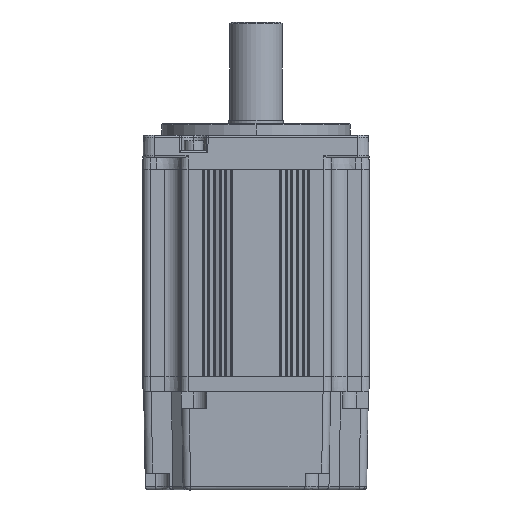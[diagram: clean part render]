
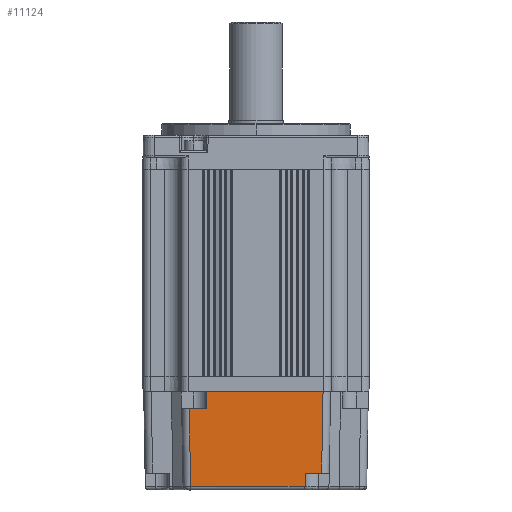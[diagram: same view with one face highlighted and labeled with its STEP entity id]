
A CAD part, front view. The second image highlights one B-rep face of the part: STEP entity #11124.
In plain terms, the highlighted planar face has unit normal (0, -1, -0.018).
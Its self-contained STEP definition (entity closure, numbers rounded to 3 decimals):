
#85 = LINE ( 'NONE', #92, #30242 ) ;
#92 = CARTESIAN_POINT ( 'NONE',  ( 25.297, -27.922, 5.935 ) ) ;
#93 = DIRECTION ( 'NONE',  ( -1., 0., 0. ) ) ;
#617 = LINE ( 'NONE', #618, #30338 ) ;
#618 = CARTESIAN_POINT ( 'NONE',  ( -12.703, -27.844, 1.435 ) ) ;
#619 = DIRECTION ( 'NONE',  ( 0., -0.017, 1. ) ) ;
#620 = LINE ( 'NONE', #621, #30339 ) ;
#621 = CARTESIAN_POINT ( 'NONE',  ( 17.686, -27.547, -15.565 ) ) ;
#622 = DIRECTION ( 'NONE',  ( 0.017, -0.017, 1. ) ) ;
#749 = CARTESIAN_POINT ( 'NONE',  ( -19.703, -27.844, 1.435 ) ) ;
#754 = LINE ( 'NONE', #749, #30376 ) ;
#758 = DIRECTION ( 'NONE',  ( -1., 0., 0. ) ) ;
#896 = LINE ( 'NONE', #897, #30423 ) ;
#897 = CARTESIAN_POINT ( 'NONE',  ( -19.703, -27.548, -15.565 ) ) ;
#898 = DIRECTION ( 'NONE',  ( 1., 0., 0. ) ) ;
#902 = LINE ( 'NONE', #915, #30426 ) ;
#909 = LINE ( 'NONE', #910, #30428 ) ;
#910 = CARTESIAN_POINT ( 'NONE',  ( 13.297, -28.158, 19.435 ) ) ;
#911 = DIRECTION ( 'NONE',  ( 0., -0.017, 1. ) ) ;
#915 = CARTESIAN_POINT ( 'NONE',  ( -19.703, -27.486, -19.083 ) ) ;
#916 = DIRECTION ( 'NONE',  ( 1., 0., 0. ) ) ;
#921 = LINE ( 'NONE', #928, #30432 ) ;
#928 = CARTESIAN_POINT ( 'NONE',  ( -17.389, -27.844, 1.435 ) ) ;
#929 = DIRECTION ( 'NONE',  ( 0.017, 0.017, -1. ) ) ;
#984 = CARTESIAN_POINT ( 'NONE',  ( 13.297, -27.486, -19.065 ) ) ;
#985 = CARTESIAN_POINT ( 'NONE',  ( 13.297, -27.486, -19.071 ) ) ;
#990 = CARTESIAN_POINT ( 'NONE',  ( 13.297, -27.486, -19.077 ) ) ;
#991 = CARTESIAN_POINT ( 'NONE',  ( 13.297, -27.486, -19.083 ) ) ;
#11124 = ADVANCED_FACE ( 'NONE', ( #19225 ), #19226, .T. ) ;
#12330 = EDGE_LOOP ( 'NONE', ( #15167, #15168, #15169, #15170, #15171, #15172, #15173, #15174, #15175 ) ) ;
#14833 = VERTEX_POINT ( 'NONE', #22484 ) ;
#14839 = VERTEX_POINT ( 'NONE', #22493 ) ;
#14841 = VERTEX_POINT ( 'NONE', #22495 ) ;
#14843 = VERTEX_POINT ( 'NONE', #22497 ) ;
#14846 = VERTEX_POINT ( 'NONE', #22500 ) ;
#14850 = VERTEX_POINT ( 'NONE', #22504 ) ;
#14857 = VERTEX_POINT ( 'NONE', #22511 ) ;
#14902 = VERTEX_POINT ( 'NONE', #22556 ) ;
#14904 = VERTEX_POINT ( 'NONE', #22558 ) ;
#15167 = ORIENTED_EDGE ( 'NONE', *, *, #16344, .T. ) ;
#15168 = ORIENTED_EDGE ( 'NONE', *, *, #16259, .T. ) ;
#15169 = ORIENTED_EDGE ( 'NONE', *, *, #16167, .T. ) ;
#15170 = ORIENTED_EDGE ( 'NONE', *, *, #16258, .F. ) ;
#15171 = ORIENTED_EDGE ( 'NONE', *, *, #16299, .T. ) ;
#15172 = ORIENTED_EDGE ( 'NONE', *, *, #16354, .T. ) ;
#15173 = ORIENTED_EDGE ( 'NONE', *, *, #16350, .T. ) ;
#15174 = ORIENTED_EDGE ( 'NONE', *, *, #16373, .F. ) ;
#15175 = ORIENTED_EDGE ( 'NONE', *, *, #16348, .T. ) ;
#16167 = EDGE_CURVE ( 'NONE', #14904, #14902, #85, .T. ) ;
#16258 = EDGE_CURVE ( 'NONE', #14857, #14902, #617, .T. ) ;
#16259 = EDGE_CURVE ( 'NONE', #14841, #14904, #620, .T. ) ;
#16299 = EDGE_CURVE ( 'NONE', #14857, #14850, #754, .T. ) ;
#16344 = EDGE_CURVE ( 'NONE', #14843, #14841, #896, .T. ) ;
#16348 = EDGE_CURVE ( 'NONE', #14839, #14843, #909, .T. ) ;
#16350 = EDGE_CURVE ( 'NONE', #14833, #14846, #902, .T. ) ;
#16354 = EDGE_CURVE ( 'NONE', #14850, #14833, #921, .T. ) ;
#16373 = EDGE_CURVE ( 'NONE', #14839, #14846, #29962, .T. ) ;
#19221 = CARTESIAN_POINT ( 'NONE',  ( -19.703, -28.158, 19.435 ) ) ;
#19225 = FACE_OUTER_BOUND ( 'NONE', #12330, .T. ) ;
#19226 = PLANE ( 'NONE',  #29616 ) ;
#19228 = DIRECTION ( 'NONE',  ( 0., -1., -0.017 ) ) ;
#19229 = DIRECTION ( 'NONE',  ( 0., 0.017, -1. ) ) ;
#22484 = CARTESIAN_POINT ( 'NONE',  ( -17.031, -27.486, -19.083 ) ) ;
#22493 = CARTESIAN_POINT ( 'NONE',  ( 13.297, -27.486, -19.065 ) ) ;
#22495 = CARTESIAN_POINT ( 'NONE',  ( 17.686, -27.547, -15.565 ) ) ;
#22497 = CARTESIAN_POINT ( 'NONE',  ( 13.297, -27.547, -15.565 ) ) ;
#22500 = CARTESIAN_POINT ( 'NONE',  ( 13.297, -27.486, -19.083 ) ) ;
#22504 = CARTESIAN_POINT ( 'NONE',  ( -17.389, -27.844, 1.435 ) ) ;
#22511 = CARTESIAN_POINT ( 'NONE',  ( -12.703, -27.844, 1.435 ) ) ;
#22556 = CARTESIAN_POINT ( 'NONE',  ( -12.703, -27.923, 5.935 ) ) ;
#22558 = CARTESIAN_POINT ( 'NONE',  ( 18.062, -27.922, 5.935 ) ) ;
#29616 = AXIS2_PLACEMENT_3D ( 'NONE', #19221, #19228, #19229 ) ;
#29962 = B_SPLINE_CURVE_WITH_KNOTS ( 'NONE', 3,
 ( #984, #985, #990, #991 ),
 .UNSPECIFIED., .F., .F.,
 ( 4, 4 ),
 ( 0., 1. ),
 .UNSPECIFIED. ) ;
#30242 = VECTOR ( 'NONE', #93, 1000. ) ;
#30338 = VECTOR ( 'NONE', #619, 1000. ) ;
#30339 = VECTOR ( 'NONE', #622, 1000. ) ;
#30376 = VECTOR ( 'NONE', #758, 1000. ) ;
#30423 = VECTOR ( 'NONE', #898, 1000. ) ;
#30426 = VECTOR ( 'NONE', #916, 1000. ) ;
#30428 = VECTOR ( 'NONE', #911, 1000. ) ;
#30432 = VECTOR ( 'NONE', #929, 1000. ) ;
